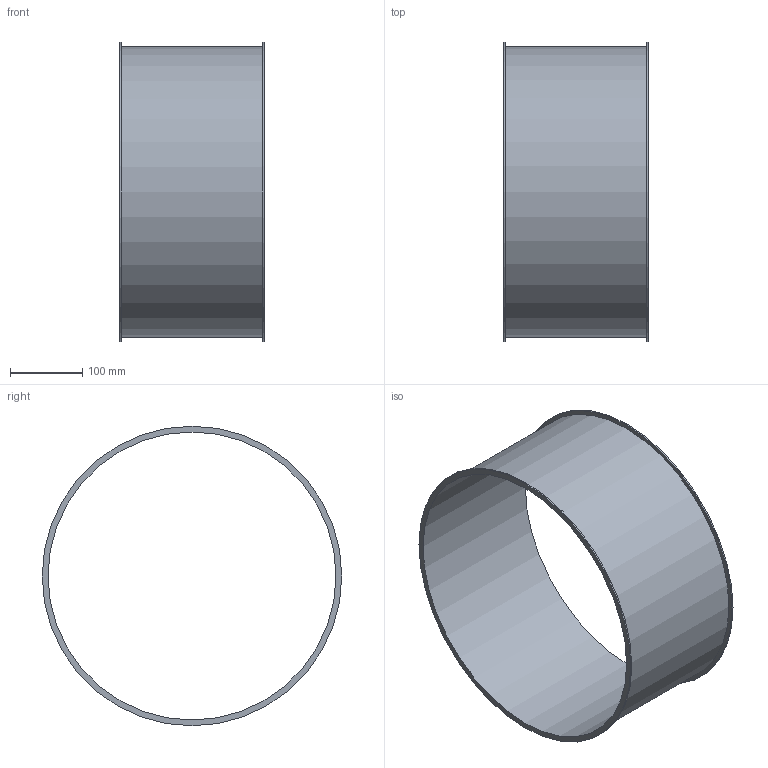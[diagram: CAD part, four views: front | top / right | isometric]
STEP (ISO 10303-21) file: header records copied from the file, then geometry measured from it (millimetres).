
FILE_DESCRIPTION((''),'2;1');
FILE_NAME('U:\Wolfgang\Marcel-3D\fertig\Kapitel 1\4021004.stp','2010-05-31T11:54:12',('TK2'),(''),'Autodesk Inventor 2010','Autodesk Inventor 2010','');
FILE_SCHEMA(('AUTOMOTIVE_DESIGN { 1 0 10303 214 1 1 1 1 }'));
Length unit declared in the file: millimetre
Products named in the file (1): 4021004
Bounding box: 200 x 414 x 414 mm (x, y, z)
Volume: 533417.3 mm3; surface area: 538594.6 mm2
Topology: 1 solids, 1 shells, 8 faces, 12 edges, 8 vertices
Faces by surface type: cylinder 4, plane 4
Full cylindrical faces by diameter (mm): 398 x1, 402 x1, 414 x2
Entity records: 194 total; most frequent: DIRECTION 34, CARTESIAN_POINT 25, AXIS2_PLACEMENT_3D 17, ORIENTED_EDGE 16, EDGE_LOOP 16, VERTEX_POINT 8, CIRCLE 8, EDGE_CURVE 8
